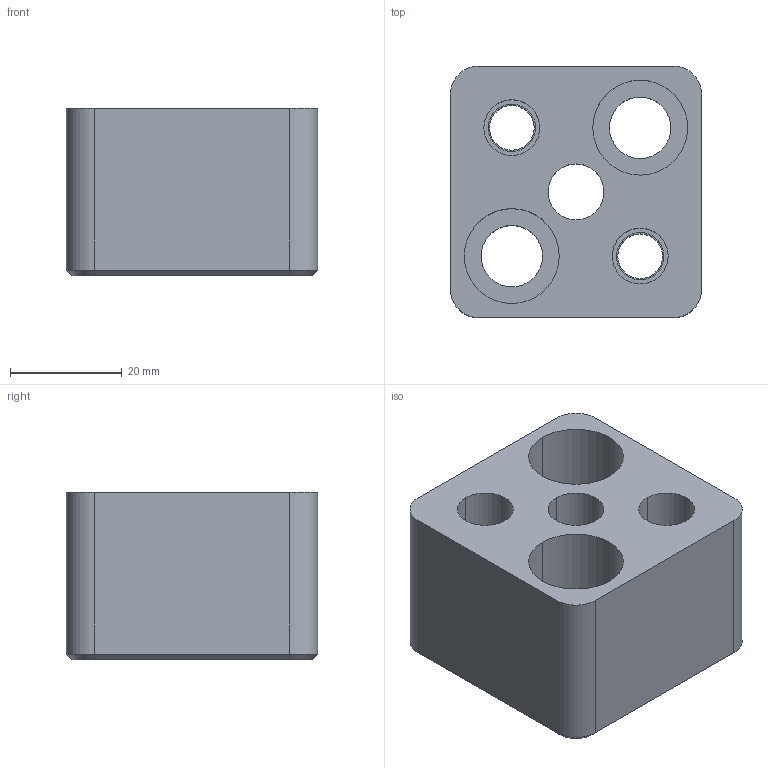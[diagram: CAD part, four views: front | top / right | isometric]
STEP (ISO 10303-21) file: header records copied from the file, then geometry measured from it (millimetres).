
FILE_DESCRIPTION(/* description */ (''),/* implementation_level */ '2;1');
FILE_NAME(/* name */ '3d_hsr-an10_04194_r00.stp',/* time_stamp */ '2011-01-10T14:14:35+09:00',/* author */ ('MISUMI'),/* organization */ (''),/* preprocessor_version */ 'ST-DEVELOPER v11',/* originating_system */ 'UGS - NX 5.0',/* authorisation */ '');
FILE_SCHEMA (('CONFIG_CONTROL_DESIGN'));
Length unit declared in the file: millimetre
Products named in the file (1): 3d_hsr-an10_04194_r00
Bounding box: 45 x 45 x 30 mm (x, y, z)
Volume: 44540.6 mm3; surface area: 13536.2 mm2
Topology: 1 solids, 1 shells, 51 faces, 116 edges, 74 vertices
Faces by surface type: cylinder 28, plane 17, cone 6
Entity records: 1562 total; most frequent: DIRECTION 278, CARTESIAN_POINT 254, ORIENTED_EDGE 232, EDGE_CURVE 116, AXIS2_PLACEMENT_3D 114, VERTEX_POINT 74, EDGE_LOOP 68, CIRCLE 62
